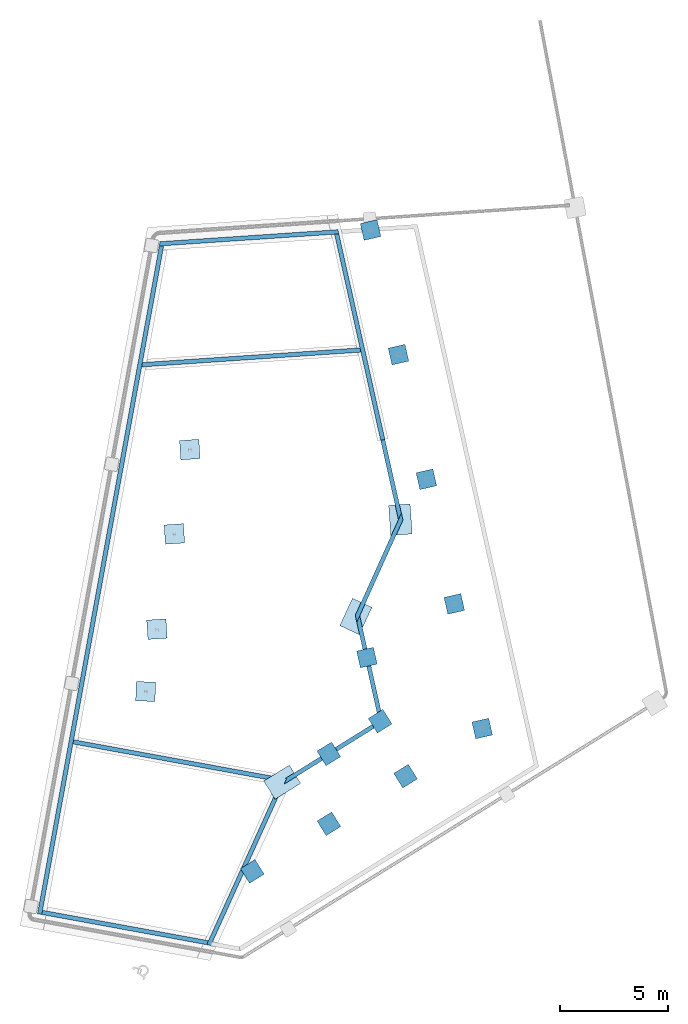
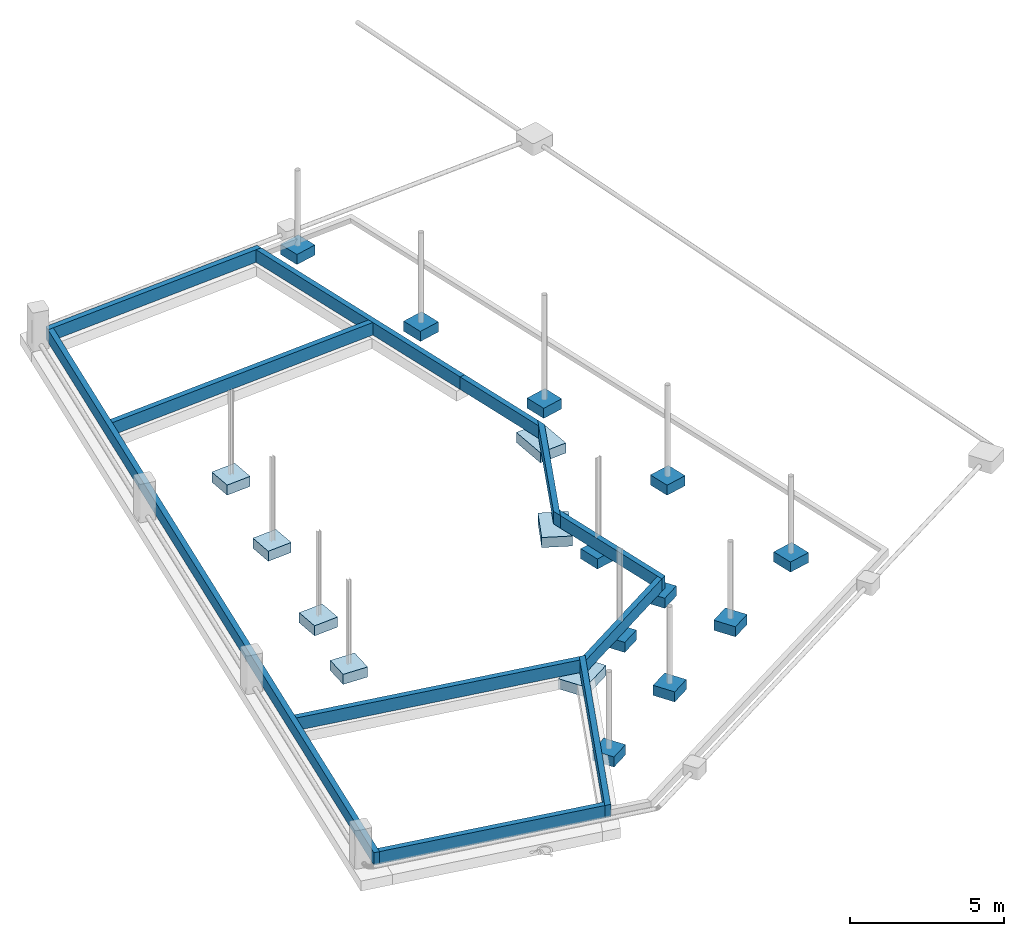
# One storey, part 6 of 17: 18 slabs, 11 walls, 11 openings.
"""IFC2X3 building model written with IfcOpenShell, lengths in centimetres."""

from ifc_helpers import new_model, entity, si_unit, converted_unit, derived_unit, direction, frame, frame_2d, origin, origin_2d_with_axis, place, context, subcontext, project, spatial, polyline, rectangle, outline, extrude, material, layer, layer_set, layer_usage, type_object, element, save


model = new_model("IFC2X3")

# Units and contexts
model_context = context("Model", 3, precision=0.001, world=origin(), true_north=direction((6.12303176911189e-17, 1.0)))
body_context = subcontext(model_context, "Body", "Model", "MODEL_VIEW")
ifc_project = project(units=[si_unit("LENGTHUNIT", "METRE", prefix="CENTI"), si_unit("AREAUNIT", "SQUARE_METRE"), si_unit("VOLUMEUNIT", "CUBIC_METRE"), converted_unit("PLANEANGLEUNIT", "DEGREE", entity("IfcRatioMeasure", 0.0174532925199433), si_unit("PLANEANGLEUNIT", "RADIAN"), dimensions=[0, 0, 0, 0, 0, 0, 0]), si_unit("MASSUNIT", "GRAM", prefix="KILO"), derived_unit("MASSDENSITYUNIT", [(si_unit("MASSUNIT", "GRAM", prefix="KILO"), 1), (si_unit("LENGTHUNIT", "METRE"), -3)]), si_unit("TIMEUNIT", "SECOND"), si_unit("FREQUENCYUNIT", "HERTZ"), si_unit("THERMODYNAMICTEMPERATUREUNIT", "DEGREE_CELSIUS"), derived_unit("THERMALTRANSMITTANCEUNIT", [(si_unit("MASSUNIT", "GRAM", prefix="KILO"), 1), (si_unit("THERMODYNAMICTEMPERATUREUNIT", "KELVIN"), -1), (si_unit("TIMEUNIT", "SECOND"), -3)]), derived_unit("VOLUMETRICFLOWRATEUNIT", [(si_unit("LENGTHUNIT", "METRE"), 3), (si_unit("TIMEUNIT", "SECOND"), -1)]), si_unit("ELECTRICCURRENTUNIT", "AMPERE"), si_unit("ELECTRICVOLTAGEUNIT", "VOLT"), si_unit("POWERUNIT", "WATT"), si_unit("FORCEUNIT", "NEWTON", prefix="KILO"), si_unit("ILLUMINANCEUNIT", "LUX"), si_unit("LUMINOUSFLUXUNIT", "LUMEN"), si_unit("LUMINOUSINTENSITYUNIT", "CANDELA"), derived_unit("USERDEFINED", [(si_unit("MASSUNIT", "GRAM", prefix="KILO"), -1), (si_unit("LENGTHUNIT", "METRE"), -2), (si_unit("TIMEUNIT", "SECOND"), 3), (si_unit("LUMINOUSFLUXUNIT", "LUMEN"), 1)]), derived_unit("LINEARVELOCITYUNIT", [(si_unit("LENGTHUNIT", "METRE"), 1), (si_unit("TIMEUNIT", "SECOND"), -1)]), si_unit("PRESSUREUNIT", "PASCAL"), derived_unit("USERDEFINED", [(si_unit("LENGTHUNIT", "METRE"), -2), (si_unit("MASSUNIT", "GRAM", prefix="KILO"), 1), (si_unit("TIMEUNIT", "SECOND"), -2)])], contexts=[model_context])

# Site, building, storey
site_placement = place(None, frame((2611.71187422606, 13650.4058644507, 0.0), z_axis=(0.0, 0.0, 1.0), x_axis=(0.0673222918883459, -0.997731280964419, 0.0)))
site = spatial("IfcSite", under=ifc_project, at=site_placement, Name="Surface", CompositionType="ELEMENT")
building_placement = place(site_placement, origin())
building = spatial("IfcBuilding", under=site, at=building_placement, CompositionType="ELEMENT")
storey_placement = place(building_placement, frame((0.0, 0.0, 86950.0)))
storey = spatial("IfcBuildingStorey", under=building, at=storey_placement, Name="-1 Soubassement", CompositionType="ELEMENT", Elevation=86950.0)

# Slabs
ifc_material_1 = material(Name="Béton - Béton coulé sur place")
slab_type_1 = type_object("IfcSlabType", Name="-M1-", PredefinedType="FLOOR", material=ifc_material_1)
slab_1_placement = place(storey_placement, origin())
element("IfcSlab", 1, at=slab_1_placement, inside=storey, type_object=slab_type_1, Name="Base rectangulaire modifier:-M1-", ObjectType="Base rectangulaire modifier:-M1-", PredefinedType="FLOOR", context=body_context, shape_type="SweptSolid", body=[
    extrude(rectangle(XDim=79.9999999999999, YDim=80.0000000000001, at=frame_2d((1.95399252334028e-13, -1.4210854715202e-13), x_axis=(1.0, 0.0))), frame((2543.04069389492, 1265.78216300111, -40.0), z_axis=(0.0, 0.0, 1.0), x_axis=(-0.987688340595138, -0.156434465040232, 0.0)), (0.0, 0.0, 1.0), 40.0000000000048),
])
slab_type_2 = type_object("IfcSlabType", Name="-M1-", PredefinedType="FLOOR", material=ifc_material_1)
slab_2_placement = place(storey_placement, origin())
element("IfcSlab", 2, at=slab_2_placement, inside=storey, type_object=slab_type_2, Name="Base rectangulaire modifier:-M1-", ObjectType="Base rectangulaire modifier:-M1-", PredefinedType="FLOOR", context=body_context, shape_type="SweptSolid", body=[
    extrude(rectangle(XDim=79.9999999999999, YDim=80.0000000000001, at=frame_2d((-2.30926389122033e-13, -7.46069872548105e-14), x_axis=(1.0, 0.0))), frame((3129.01641896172, 1356.10099863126, -40.0), z_axis=(0.0, 0.0, 1.0), x_axis=(-0.987688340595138, -0.156434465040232, 0.0)), (0.0, 0.0, 1.0), 40.0000000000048),
])
slab_type_3 = type_object("IfcSlabType", Name="-M1-", PredefinedType="FLOOR", material=ifc_material_1)
slab_3_placement = place(storey_placement, origin())
element("IfcSlab", 3, at=slab_3_placement, inside=storey, type_object=slab_type_3, Name="Base rectangulaire modifier:-M1-", ObjectType="Base rectangulaire modifier:-M1-", PredefinedType="FLOOR", context=body_context, shape_type="SweptSolid", body=[
    extrude(rectangle(XDim=79.9999999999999, YDim=80.0000000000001, at=frame_2d((1.95399252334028e-13, -1.4210854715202e-13), x_axis=(1.0, 0.0))), frame((3714.99214402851, 1446.41983426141, -40.0), z_axis=(0.0, 0.0, 1.0), x_axis=(-0.987688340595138, -0.156434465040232, 0.0)), (0.0, 0.0, 1.0), 40.0000000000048),
])
slab_type_4 = type_object("IfcSlabType", Name="-M1-", PredefinedType="FLOOR", material=ifc_material_1)
slab_4_placement = place(storey_placement, origin())
element("IfcSlab", 4, at=slab_4_placement, inside=storey, type_object=slab_type_4, Name="Base rectangulaire modifier:-M1-", ObjectType="Base rectangulaire modifier:-M1-", PredefinedType="FLOOR", context=body_context, shape_type="SweptSolid", body=[
    extrude(rectangle(XDim=80.0000000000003, YDim=80.0000000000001, at=frame_2d((-8.38440428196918e-13, 2.41584530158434e-13), x_axis=(1.0, 0.0))), frame((4300.96786909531, 1536.73866989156, -40.0), z_axis=(0.0, 0.0, 1.0), x_axis=(-0.987688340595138, -0.156434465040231, 0.0)), (0.0, 0.0, 1.0), 40.0000000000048),
])
slab_type_5 = type_object("IfcSlabType", Name="-M1-", PredefinedType="FLOOR", material=ifc_material_1)
slab_5_placement = place(storey_placement, origin())
element("IfcSlab", 5, at=slab_5_placement, inside=storey, type_object=slab_type_5, Name="Base rectangulaire modifier:-M1-", ObjectType="Base rectangulaire modifier:-M1-", PredefinedType="FLOOR", context=body_context, shape_type="SweptSolid", body=[
    extrude(rectangle(XDim=79.9999999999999, YDim=80.0000000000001, at=frame_2d((-2.30926389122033e-13, -7.46069872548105e-14), x_axis=(1.0, 0.0))), frame((1957.06496882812, 1175.46332737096, -40.0), z_axis=(0.0, 0.0, 1.0), x_axis=(-0.987688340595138, -0.156434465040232, 0.0)), (0.0, 0.0, 1.0), 40.0000000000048),
])
slab_type_6 = type_object("IfcSlabType", Name="-M1-", PredefinedType="FLOOR", material=ifc_material_1)
slab_6_placement = place(storey_placement, origin())
element("IfcSlab", 6, at=slab_6_placement, inside=storey, type_object=slab_type_6, Name="Base rectangulaire modifier:-M1-", ObjectType="Base rectangulaire modifier:-M1-", PredefinedType="FLOOR", context=body_context, shape_type="SweptSolid", body=[
    extrude(rectangle(XDim=80.0000000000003, YDim=79.9999999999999, at=frame_2d((-4.9737991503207e-14, -9.9475983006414e-14), x_axis=(1.0, 0.0))), frame((4497.63771069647, 1166.85649385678, -40.0), z_axis=(0.0, 0.0, 1.0), x_axis=(-0.882947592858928, -0.469471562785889, 0.0)), (0.0, 0.0, 1.0), 40.0000000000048),
])
slab_type_7 = type_object("IfcSlabType", Name="-M1-", PredefinedType="FLOOR", material=ifc_material_1)
slab_7_placement = place(storey_placement, origin())
element("IfcSlab", 7, at=slab_7_placement, inside=storey, type_object=slab_type_7, Name="Base rectangulaire modifier:-M1-", ObjectType="Base rectangulaire modifier:-M1-", PredefinedType="FLOOR", context=body_context, shape_type="SweptSolid", body=[
    extrude(rectangle(XDim=80.0000000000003, YDim=79.9999999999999, at=frame_2d((-2.1316282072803e-14, -5.32907051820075e-14), x_axis=(1.0, 0.0))), frame((4694.30755229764, 796.974317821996, -40.0), z_axis=(0.0, 0.0, 1.0), x_axis=(-0.882947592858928, -0.469471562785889, 0.0)), (0.0, 0.0, 1.0), 40.0000000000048),
])
slab_type_8 = type_object("IfcSlabType", Name="-M1-", PredefinedType="FLOOR", material=ifc_material_1)
slab_8_placement = place(storey_placement, origin())
element("IfcSlab", 8, at=slab_8_placement, inside=storey, type_object=slab_type_8, Name="Base rectangulaire modifier:-M1-", ObjectType="Base rectangulaire modifier:-M1-", PredefinedType="FLOOR", context=body_context, shape_type="SweptSolid", body=[
    extrude(rectangle(XDim=80.0000000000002, YDim=79.9999999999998, at=frame_2d((-3.11940161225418, -2.8421709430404e-14), x_axis=(1.0, 0.0))), frame((4888.2231257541, 425.627671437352, -40.0), z_axis=(0.0, 0.0, 1.0), x_axis=(-0.882947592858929, -0.469471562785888, 0.0)), (0.0, 0.0, 1.0), 40.0000000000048),
])
slab_type_9 = type_object("IfcSlabType", Name="-M1-", PredefinedType="FLOOR", material=ifc_material_1)
slab_9_placement = place(storey_placement, origin())
element("IfcSlab", 9, at=slab_9_placement, inside=storey, type_object=slab_type_9, Name="Base rectangulaire modifier:-M1-", ObjectType="Base rectangulaire modifier:-M1-", PredefinedType="FLOOR", context=body_context, shape_type="SweptSolid", body=[
    extrude(rectangle(XDim=80.0000000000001, YDim=79.9999999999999, at=origin_2d_with_axis()), frame((4235.211265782, 1066.04610352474, -40.0), z_axis=(0.0, 0.0, 1.0), x_axis=(-0.882947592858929, -0.469471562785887, 0.0)), (0.0, 0.0, 1.0), 40.0000000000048),
])
slab_type_10 = type_object("IfcSlabType", Name="-M1-", PredefinedType="FLOOR", material=ifc_material_1)
slab_10_placement = place(storey_placement, origin())
element("IfcSlab", 10, at=slab_10_placement, inside=storey, type_object=slab_type_10, Name="Base rectangulaire modifier:-M1-", ObjectType="Base rectangulaire modifier:-M1-", PredefinedType="FLOOR", context=body_context, shape_type="SweptSolid", body=[
    extrude(rectangle(XDim=80.0000000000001, YDim=79.9999999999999, at=origin_2d_with_axis()), frame((4370.57935281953, 818.349487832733, -40.0), z_axis=(0.0, 0.0, 1.0), x_axis=(-0.882947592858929, -0.469471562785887, 0.0)), (0.0, 0.0, 1.0), 40.0000000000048),
])
slab_type_11 = type_object("IfcSlabType", Name="-M1-", PredefinedType="FLOOR", material=ifc_material_1)
slab_11_placement = place(storey_placement, origin())
element("IfcSlab", 11, at=slab_11_placement, inside=storey, type_object=slab_type_11, Name="Base rectangulaire modifier:-M1-", ObjectType="Base rectangulaire modifier:-M1-", PredefinedType="FLOOR", context=body_context, shape_type="SweptSolid", body=[
    extrude(rectangle(XDim=80.0000000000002, YDim=79.9999999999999, at=frame_2d((4.33431068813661e-13, -6.3948846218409e-14), x_axis=(1.0, 0.0))), frame((3936.34646456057, 1024.83753198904, -40.0), z_axis=(0.0, 0.0, 1.0), x_axis=(-0.988328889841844, -0.152335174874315, 0.0)), (0.0, 0.0, 1.0), 40.0000000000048),
])
slab_type_12 = type_object("IfcSlabType", Name="-M2-", PredefinedType="FLOOR", material=ifc_material_1)
slab_12_placement = place(storey_placement, origin())
element("IfcSlab", 12, at=slab_12_placement, inside=storey, type_object=slab_type_12, Name="Base rectangulaire modifier:-M2-", ObjectType="Base rectangulaire modifier:-M2-", PredefinedType="FLOOR", context=body_context, shape_type="SweptSolid", body=[
    extrude(rectangle(XDim=99.9999999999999, YDim=140.0, at=frame_2d((-2.98832461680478, -19.0568554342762), x_axis=(1.0, 0.0))), frame((4493.36953376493, 575.298303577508, -40.0), z_axis=(0.0, 0.0, 1.0), x_axis=(-0.882947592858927, -0.469471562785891, 0.0)), (0.0, 0.0, 1.0), 40.0000000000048),
])
slab_type_13 = type_object("IfcSlabType", Name="-M2-", PredefinedType="FLOOR", material=ifc_material_1)
slab_13_placement = place(storey_placement, origin())
element("IfcSlab", 13, at=slab_13_placement, inside=storey, type_object=slab_type_13, Name="Base rectangulaire modifier:-M2-", ObjectType="Base rectangulaire modifier:-M2-", PredefinedType="FLOOR", context=body_context, shape_type="SweptSolid", body=[
    extrude(rectangle(XDim=100.0, YDim=140.0, at=frame_2d((7.105427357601e-15, -2.41584530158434e-13), x_axis=(1.0, 0.0))), frame((3742.42782855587, 986.550045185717, -40.0), z_axis=(0.0, 0.0, 1.0), x_axis=(-0.48149290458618, -0.8764499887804, 0.0)), (0.0, 0.0, 1.0), 40.0000000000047),
])
slab_type_14 = type_object("IfcSlabType", Name="-M2-", PredefinedType="FLOOR", material=ifc_material_1)
slab_14_placement = place(storey_placement, origin())
element("IfcSlab", 14, at=slab_14_placement, inside=storey, type_object=slab_type_14, Name="Base rectangulaire modifier:-M2-", ObjectType="Base rectangulaire modifier:-M2-", PredefinedType="FLOOR", context=body_context, shape_type="SweptSolid", body=[
    extrude(rectangle(XDim=100.0, YDim=140.0, at=frame_2d((0.0, -2.1316282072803e-13), x_axis=(1.0, 0.0))), frame((3308.08462238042, 1223.16680348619, -40.0), z_axis=(0.0, 0.0, 1.0), x_axis=(0.0037882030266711, -0.999992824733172, 0.0)), (0.0, 0.0, 1.0), 40.0000000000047),
])
slab_type_15 = type_object("IfcSlabType", Name="-M3-", PredefinedType="FLOOR", material=ifc_material_1)
slab_15_placement = place(storey_placement, origin())
element("IfcSlab", 15, at=slab_15_placement, inside=storey, type_object=slab_type_15, Name="Base rectangulaire modifier:-M3-", ObjectType="Base rectangulaire modifier:-M3-", PredefinedType="FLOOR", context=body_context, shape_type="SweptSolid", body=[
    extrude(rectangle(XDim=89.9999999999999, YDim=90.0, at=frame_2d((-2.16715534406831e-13, 0.0), x_axis=(1.0, 0.0))), frame((2917.56644128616, 269.678297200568, -40.0), z_axis=(0.0, 0.0, 1.0), x_axis=(-1.0, 0.0, 0.0)), (0.0, 0.0, 1.0), 40.0000000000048),
])
slab_type_16 = type_object("IfcSlabType", Name="-M3-", PredefinedType="FLOOR", material=ifc_material_1)
slab_16_placement = place(storey_placement, origin())
element("IfcSlab", 16, at=slab_16_placement, inside=storey, type_object=slab_type_16, Name="Base rectangulaire modifier:-M3-", ObjectType="Base rectangulaire modifier:-M3-", PredefinedType="FLOOR", context=body_context, shape_type="SweptSolid", body=[
    extrude(rectangle(XDim=89.9999999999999, YDim=90.0, at=frame_2d((2.16715534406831e-13, 0.0), x_axis=(1.0, 0.0))), frame((3303.51448852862, 171.748012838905, -40.0), z_axis=(0.0, 0.0, 1.0), x_axis=(-1.0, 0.0, 0.0)), (0.0, 0.0, 1.0), 40.0000000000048),
])
slab_type_17 = type_object("IfcSlabType", Name="-M3-", PredefinedType="FLOOR", material=ifc_material_1)
slab_17_placement = place(storey_placement, origin())
element("IfcSlab", 17, at=slab_17_placement, inside=storey, type_object=slab_type_17, Name="Base rectangulaire modifier:-M3-", ObjectType="Base rectangulaire modifier:-M3-", PredefinedType="FLOOR", context=body_context, shape_type="SweptSolid", body=[
    extrude(rectangle(XDim=89.9999999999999, YDim=90.0, at=frame_2d((2.16715534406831e-13, -7.105427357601e-15), x_axis=(1.0, 0.0))), frame((3738.98085257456, 61.2529729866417, -40.0), z_axis=(0.0, 0.0, 1.0), x_axis=(-1.0, 0.0, 0.0)), (0.0, 0.0, 1.0), 40.0000000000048),
])
slab_type_18 = type_object("IfcSlabType", Name="-M3-", PredefinedType="FLOOR", material=ifc_material_1)
slab_18_placement = place(storey_placement, origin())
element("IfcSlab", 18, at=slab_18_placement, inside=storey, type_object=slab_type_18, Name="Base rectangulaire modifier:-M3-", ObjectType="Base rectangulaire modifier:-M3-", PredefinedType="FLOOR", context=body_context, shape_type="SweptSolid", body=[
    extrude(rectangle(XDim=89.9999999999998, YDim=90.0, at=frame_2d((3.5527136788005e-15, -3.5527136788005e-15), x_axis=(1.0, 0.0))), frame((4024.32309652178, -10.5978709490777, -40.0), z_axis=(0.0, 0.0, 1.0), x_axis=(-0.994733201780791, 0.102498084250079, 0.0)), (0.0, 0.0, 1.0), 40.0000000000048),
])

# Walls
ifc_material_2 = material(Name="Maçonnerie - Voile BA")
ifc_layer_1 = layer(ifc_material_2, 20.0)
ifc_layer_set_1 = layer_set([ifc_layer_1], Name="Mur de base:Sbt1")
ifc_layer_usage_1 = layer_usage(ifc_layer_set_1, "AXIS2", "NEGATIVE", 10.0)
wall_type_1 = type_object("IfcWallType", Name="Mur de base:Sbt1", PredefinedType="STANDARD", material=ifc_layer_set_1)
wall_1_placement = place(storey_placement, frame((1955.16644128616, 1027.37361787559, 0.0), z_axis=(0.0, 0.0, 1.0), x_axis=(0.0, -1.0, 0.0)))
element("IfcWallStandardCase", 19, at=wall_1_placement, inside=storey, type_object=wall_type_1, material=ifc_layer_usage_1, Name="Mur de base:Sbt1", ObjectType="Mur de base:Sbt1", context=body_context, shape_type="SweptSolid", body=[
    extrude(outline(polyline([(830.441123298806, -10.0), (835.500265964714, 10.0), (20.2361786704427, 10.0), (0.0, 10.0), (3.08268181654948, -10.0), (830.441123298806, -10.0)])), origin(), (0.0, 0.0, 1.0), 49.9999999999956),
])
ifc_layer_usage_2 = layer_usage(ifc_layer_set_1, "AXIS2", "NEGATIVE", 10.0)
wall_2_placement = place(storey_placement, frame((2509.65091129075, 72.2425020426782, 0.0), z_axis=(0.0, 0.0, 1.0), x_axis=(0.0, 1.0, 0.0)))
element("IfcWallStandardCase", 20, at=wall_2_placement, inside=storey, type_object=wall_type_1, material=ifc_layer_usage_2, Name="Mur de base:Sbt1", ObjectType="Mur de base:Sbt1", context=body_context, shape_type="SweptSolid", body=[
    extrude(outline(polyline([(1020.35989682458, -10.0), (1017.27721500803, 10.0), (5.05914266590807, 10.0), (0.0, -10.0), (1020.35989682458, -10.0)])), origin(), (0.0, 0.0, 1.0), 49.9999999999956),
])

# Wall, openings
ifc_layer_usage_3 = layer_usage(ifc_layer_set_1, "AXIS2", "NEGATIVE", 10.0)
wall_3_placement = place(storey_placement, frame((4476.91074093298, 592.300193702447, 0.0), z_axis=(0.0, 0.0, 1.0), x_axis=(-0.245945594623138, -0.969283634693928, 0.0)))
wall_3 = element("IfcWallStandardCase", 21, at=wall_3_placement, inside=storey, type_object=wall_type_1, material=ifc_layer_usage_3, Name="Mur de base:Sbt1", ObjectType="Mur de base:Sbt1", context=body_context, shape_type="SweptSolid", body=[
    extrude(outline(polyline([(984.169405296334, -10.0), (984.154700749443, 10.0), (4.98656005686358, 10.0), (0.0, -10.0), (984.169405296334, -10.0)])), origin(), (0.0, 0.0, 1.0), 49.9999999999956),
])
opening_1_placement = place(wall_3_placement, origin())
element("IfcOpeningElement", 22, at=opening_1_placement, cuts=wall_3, Name="Mur de base:Sbt1", ObjectType="Opening", context=body_context, shape_type="SweptSolid", body=[
    extrude(rectangle(XDim=207.5, YDim=100.0, at=frame_2d((6.93489710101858e-12, -2.8421709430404e-14), x_axis=(1.0, 0.0))), frame((92.6111214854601, -135.299999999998, 153.749999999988), z_axis=(0.0, 1.0, 0.0), x_axis=(0.0, 0.0, 1.0)), (0.0, 0.0, 1.0), 304.8),
])
opening_2_placement = place(wall_3_placement, origin())
element("IfcOpeningElement", 23, at=opening_2_placement, cuts=wall_3, Name="Mur de base:Sbt1", ObjectType="Opening", context=body_context, shape_type="SweptSolid", body=[
    extrude(rectangle(XDim=220.000000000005, YDim=92.9999999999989, at=frame_2d((4.9737991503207e-14, 6.93489710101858e-12), x_axis=(0.0, 1.0))), frame((-42.1755949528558, -53.2335497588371, 160.0), z_axis=(-0.672208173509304, 0.740362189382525, 0.0), x_axis=(0.740362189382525, 0.672208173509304, 0.0)), (0.0, 0.0, 1.0), 35.4000000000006),
])

# Wall, opening
ifc_layer_usage_4 = layer_usage(ifc_layer_set_1, "AXIS2", "NEGATIVE", 10.0)
wall_4_placement = place(storey_placement, frame((1963.64308953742, 1017.02072810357, 0.0), z_axis=(0.0, 0.0, 1.0), x_axis=(0.988328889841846, 0.152335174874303, 0.0)))
wall_4 = element("IfcWallStandardCase", 24, at=wall_4_placement, inside=storey, type_object=wall_type_1, material=ifc_layer_usage_4, Name="Mur de base:Sbt1", ObjectType="Mur de base:Sbt1", context=body_context, shape_type="SweptSolid", body=[
    extrude(outline(polyline([(980.688630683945, -10.0), (980.688630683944, 10.0), (3.0826818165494, 10.0), (0.0, -10.0), (540.796161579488, -10.0), (561.032340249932, -10.0), (980.688630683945, -10.0)])), origin(), (0.0, 0.0, 1.0), 49.9999999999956),
])
opening_3_placement = place(wall_4_placement, origin())
element("IfcOpeningElement", 25, at=opening_3_placement, cuts=wall_4, Name="Mur de base:Sbt1", ObjectType="Opening", context=body_context, shape_type="SweptSolid", body=[
    extrude(rectangle(XDim=219.999999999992, YDim=330.0, at=origin_2d_with_axis()), frame((1139.59459031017, -140.299999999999, 160.0), z_axis=(0.0, 1.0, 0.0), x_axis=(0.0, 0.0, 1.0)), (0.0, 0.0, 1.0), 304.8),
])

# Wall, openings
ifc_layer_usage_5 = layer_usage(ifc_layer_set_1, "AXIS2", "NEGATIVE", 10.0)
wall_5_placement = place(storey_placement, frame((4467.5560932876, 605.928866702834, 0.0), z_axis=(0.0, 0.0, 1.0), x_axis=(0.880992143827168, -0.473130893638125, 0.0)))
wall_5 = element("IfcWallStandardCase", 26, at=wall_5_placement, inside=storey, type_object=wall_type_1, material=ifc_layer_usage_5, Name="Mur de base:Sbt1", ObjectType="Mur de base:Sbt1", context=body_context, shape_type="SweptSolid", body=[
    extrude(outline(polyline([(855.074862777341, -10.0), (850.088302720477, 10.0), (28.4059408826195, 10.0), (0.0, 10.0), (1.51638198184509, 3.91812405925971), (4.98656005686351, -10.0), (25.598832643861, -10.0), (855.074862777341, -10.0)])), origin(), (0.0, 0.0, 1.0), 49.9999999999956),
])
opening_4_placement = place(wall_5_placement, origin())
element("IfcOpeningElement", 27, at=opening_4_placement, cuts=wall_5, Name="Mur de base:Sbt1", ObjectType="Opening", context=body_context, shape_type="SweptSolid", body=[
    extrude(rectangle(XDim=220.000000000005, YDim=92.9999999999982, at=frame_2d((1.06581410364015e-14, 6.93489710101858e-12), x_axis=(0.0, 1.0))), frame((227.754663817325, -140.3, 160.0), z_axis=(0.0, 1.0, 0.0), x_axis=(1.0, 0.0, 0.0)), (0.0, 0.0, 1.0), 304.8),
])
opening_5_placement = place(wall_5_placement, origin())
element("IfcOpeningElement", 28, at=opening_5_placement, cuts=wall_5, Name="Mur de base:Sbt1", ObjectType="Opening", context=body_context, shape_type="SweptSolid", body=[
    extrude(rectangle(XDim=220.000000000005, YDim=92.9999999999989, at=frame_2d((4.9737991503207e-14, 6.93489710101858e-12), x_axis=(0.0, 1.0))), frame((-47.165968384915, 20.4636572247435, 160.0), z_axis=(0.555748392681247, 0.831350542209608, 0.0), x_axis=(0.831350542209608, -0.555748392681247, 0.0)), (0.0, 0.0, 1.0), 35.3999999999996),
])
opening_6_placement = place(wall_5_placement, origin())
element("IfcOpeningElement", 29, at=opening_6_placement, cuts=wall_5, Name="Mur de base:Sbt1", ObjectType="Opening", context=body_context, shape_type="SweptSolid", body=[
    extrude(rectangle(XDim=219.999999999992, YDim=370.0, at=frame_2d((0.0, -4.68958205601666e-13), x_axis=(1.0, 0.0))), frame((628.819708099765, -140.3, 160.0), z_axis=(0.0, 1.0, 0.0), x_axis=(0.0, 0.0, 1.0)), (0.0, 0.0, 1.0), 304.8),
])
opening_7_placement = place(wall_5_placement, origin())
element("IfcOpeningElement", 30, at=opening_7_placement, cuts=wall_5, Name="Mur de base:Sbt1", ObjectType="Opening", context=body_context, shape_type="SweptSolid", body=[
    extrude(rectangle(XDim=207.5, YDim=27.1000000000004, at=frame_2d((4.45865566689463e-13, 6.93489710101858e-12), x_axis=(0.0, 1.0))), frame((52.6348199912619, -145.096920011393, 153.749999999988), z_axis=(-0.241921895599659, 0.970295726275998, 0.0), x_axis=(-0.970295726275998, -0.241921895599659, 0.0)), (0.0, 0.0, 1.0), 100.0),
])

# Walls
ifc_layer_usage_6 = layer_usage(ifc_layer_set_1, "AXIS2", "NEGATIVE", 10.0)
wall_6_placement = place(storey_placement, frame((5022.36364909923, -571.151513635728, 0.0), z_axis=(0.0, 0.0, 1.0), x_axis=(-0.969464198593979, 0.245232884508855, 0.0)))
element("IfcWallStandardCase", 31, at=wall_6_placement, inside=storey, type_object=wall_type_1, material=ifc_layer_usage_6, Name="Mur de base:Sbt1", ObjectType="Mur de base:Sbt1", context=body_context, shape_type="SweptSolid", body=[
    extrude(outline(polyline([(3156.02117241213, -10.0), (3150.96202974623, 10.0), (0.0147045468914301, 10.0), (0.0, -10.0), (20.0000054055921, -10.0), (3156.02117241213, -10.0)])), origin(), (0.0, 0.0, 1.0), 49.9999999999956),
])
ifc_layer_usage_7 = layer_usage(ifc_layer_set_1, "AXIS2", "NEGATIVE", 10.0)
wall_7_placement = place(storey_placement, frame((5015.11952507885, -559.011668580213, 0.0), z_axis=(0.0, 0.0, 1.0), x_axis=(0.245945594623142, 0.969283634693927, 0.0)))
element("IfcWallStandardCase", 32, at=wall_7_placement, inside=storey, type_object=wall_type_1, material=ifc_layer_usage_7, Name="Mur de base:Sbt1", ObjectType="Mur de base:Sbt1", context=body_context, shape_type="SweptSolid", body=[
    extrude(outline(polyline([(777.922693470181, -10.0), (782.909253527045, 10.0), (0.0, 10.0), (0.0147045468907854, -10.0), (777.922693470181, -10.0)])), origin(), (0.0, 0.0, 1.0), 49.9999999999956),
])

# Wall, opening
ifc_layer_2 = layer(ifc_material_2, 20.0)
ifc_layer_set_2 = layer_set([ifc_layer_2], Name="Mur de base:Lg1")
ifc_layer_usage_8 = layer_usage(ifc_layer_set_2, "AXIS2", "NEGATIVE", 10.0)
wall_type_2 = type_object("IfcWallType", Name="Mur de base:Lg1", PredefinedType="STANDARD", material=ifc_layer_set_2)
wall_8_placement = place(storey_placement, frame((3282.6024762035, 1238.52469854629, 0.0), z_axis=(0.0, 0.0, 1.0), x_axis=(0.881660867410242, -0.471883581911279, 0.0)))
wall_8 = element("IfcWallStandardCase", 33, at=wall_8_placement, inside=storey, type_object=wall_type_2, material=ifc_layer_usage_8, Name="Mur de base:Lg1", ObjectType="Mur de base:Lg1", context=body_context, shape_type="SweptSolid", body=[
    extrude(outline(polyline([(520.717162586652, -10.0), (547.336358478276, 10.0), (514.040989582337, 10.0), (26.6191958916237, 10.0), (0.0, -10.0), (33.2953688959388, -10.0), (520.717162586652, -10.0)])), origin(), (0.0, 0.0, 1.0), 49.9999999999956),
])
opening_8_placement = place(wall_8_placement, origin())
element("IfcOpeningElement", 34, at=opening_8_placement, cuts=wall_8, Name="Mur de base:Lg1", ObjectType="Opening", context=body_context, shape_type="SweptSolid", body=[
    extrude(rectangle(XDim=219.999999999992, YDim=400.0, at=frame_2d((0.0, -2.1316282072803e-13), x_axis=(1.0, 0.0))), frame((261.797316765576, -137.344444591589, 160.0), z_axis=(0.00141526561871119, 0.999998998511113, 0.0), x_axis=(0.0, 0.0, 1.0)), (0.0, 0.0, 1.0), 304.8),
])

# Wall
ifc_layer_usage_9 = layer_usage(ifc_layer_set_2, "AXIS2", "NEGATIVE", 10.0)
wall_9_placement = place(storey_placement, frame((3742.05448853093, 994.890514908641, 0.0), z_axis=(0.0, 0.0, 1.0), x_axis=(0.988328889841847, 0.152335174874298, 0.0)))
element("IfcWallStandardCase", 35, at=wall_9_placement, inside=storey, type_object=wall_type_2, material=ifc_layer_usage_9, Name="Mur de base:Lg1", ObjectType="Mur de base:Lg1", context=body_context, shape_type="SweptSolid", body=[
    extrude(outline(polyline([(514.074509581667, -10.0), (507.09500492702, 10.0), (0.0, 10.0), (26.6191958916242, -10.0), (492.891651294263, -10.0), (514.074509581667, -10.0)])), origin(), (0.0, 0.0, 1.0), 49.9999999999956),
])

# Wall, openings
ifc_layer_usage_10 = layer_usage(ifc_layer_set_2, "AXIS2", "NEGATIVE", 10.0)
wall_10_placement = place(storey_placement, frame((2932.8859951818, 1166.41410215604, 0.0), z_axis=(0.0, 0.0, 1.0), x_axis=(0.988328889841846, 0.152335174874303, 0.0)))
wall_10 = element("IfcWallStandardCase", 36, at=wall_10_placement, inside=storey, type_object=wall_type_2, material=ifc_layer_usage_10, Name="Mur de base:Lg1", ObjectType="Mur de base:Lg1", context=body_context, shape_type="SweptSolid", body=[
    extrude(outline(polyline([(377.232236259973, -10.0), (350.613040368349, 10.0), (0.0, 10.0), (0.0, -10.0), (377.232236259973, -10.0)])), origin(), (0.0, 0.0, 1.0), 49.9999999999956),
])
opening_9_placement = place(wall_10_placement, origin())
element("IfcOpeningElement", 37, at=opening_9_placement, cuts=wall_10, Name="Mur de base:Lg1", ObjectType="Opening", context=body_context, shape_type="SweptSolid", body=[
    extrude(rectangle(XDim=219.999999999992, YDim=330.0, at=origin_2d_with_axis()), frame((158.905959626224, -140.299999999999, 160.0), z_axis=(0.0, 1.0, 0.0), x_axis=(0.0, 0.0, 1.0)), (0.0, 0.0, 1.0), 304.8),
])
opening_10_placement = place(wall_10_placement, origin())
element("IfcOpeningElement", 38, at=opening_10_placement, cuts=wall_10, Name="Mur de base:Lg1", ObjectType="Opening", context=body_context, shape_type="SweptSolid", body=[
    extrude(rectangle(XDim=219.999999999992, YDim=400.0, at=frame_2d((0.0, -1.98951966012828e-13), x_axis=(1.0, 0.0))), frame((553.8350143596, -155.627297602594, 160.0), z_axis=(0.601815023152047, 0.798635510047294, 0.0), x_axis=(0.0, 0.0, 1.0)), (0.0, 0.0, 1.0), 35.4000000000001),
])

# Wall, opening
ifc_layer_usage_11 = layer_usage(ifc_layer_set_2, "AXIS2", "NEGATIVE", 10.0)
wall_11_placement = place(storey_placement, frame((4239.54637474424, 1064.78667753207, 0.0), z_axis=(0.0, 0.0, 1.0), x_axis=(0.469471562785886, -0.882947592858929, 0.0)))
wall_11 = element("IfcWallStandardCase", 39, at=wall_11_placement, inside=storey, type_object=wall_type_2, material=ifc_layer_usage_11, Name="Mur de base:Lg1", ObjectType="Mur de base:Lg1", context=body_context, shape_type="SweptSolid", body=[
    extrude(outline(polyline([(511.274632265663, -10.0), (506.633994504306, -5.78655598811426), (530.249288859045, 10.0), (6.97950465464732, 10.0), (0.0, -10.0), (511.274632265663, -10.0)])), origin(), (0.0, 0.0, 1.0), 49.9999999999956),
])
opening_11_placement = place(wall_11_placement, origin())
element("IfcOpeningElement", 40, at=opening_11_placement, cuts=wall_11, Name="Mur de base:Lg1", ObjectType="Opening", context=body_context, shape_type="SweptSolid", body=[
    extrude(rectangle(XDim=220.000000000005, YDim=92.9999999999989, at=frame_2d((4.9737991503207e-14, 6.93489710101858e-12), x_axis=(0.0, 1.0))), frame((461.607380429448, -140.299999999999, 160.0), z_axis=(0.0, 1.0, 0.0), x_axis=(1.0, 0.0, 0.0)), (0.0, 0.0, 1.0), 304.8),
])

save(model, "model.ifc")
